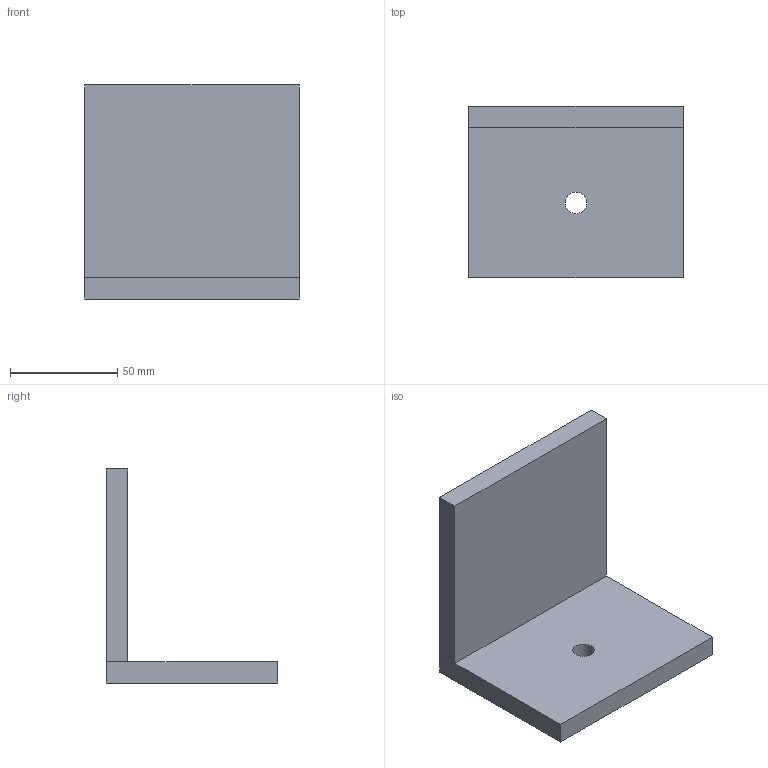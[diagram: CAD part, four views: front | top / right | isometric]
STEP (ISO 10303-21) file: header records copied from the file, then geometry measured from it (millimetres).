
FILE_DESCRIPTION(('FreeCAD Model'),'2;1');
FILE_NAME('Open CASCADE Shape Model','2026-10-30T23:44:36',('FreeCAD'),( 'FreeCAD'),'Open CASCADE STEP processor 7.6','FreeCAD','Unknown');
FILE_SCHEMA(('AUTOMOTIVE_DESIGN { 1 0 10303 214 1 1 1 1 }'));
Length unit declared in the file: millimetre
Products named in the file (1): Open CASCADE STEP translator 7.6 1
Bounding box: 100 x 80 x 100 mm (x, y, z)
Volume: 169214.6 mm3; surface area: 39557.1 mm2
Topology: 1 solids, 1 shells, 12 faces, 26 edges, 16 vertices
Faces by surface type: plane 11, cylinder 1
Full cylindrical faces by diameter (mm): 10 x1
Entity records: 334 total; most frequent: CARTESIAN_POINT 55, DIRECTION 54, ORIENTED_EDGE 52, EDGE_CURVE 26, LINE 24, VECTOR 24, VERTEX_POINT 16, AXIS2_PLACEMENT_3D 15
